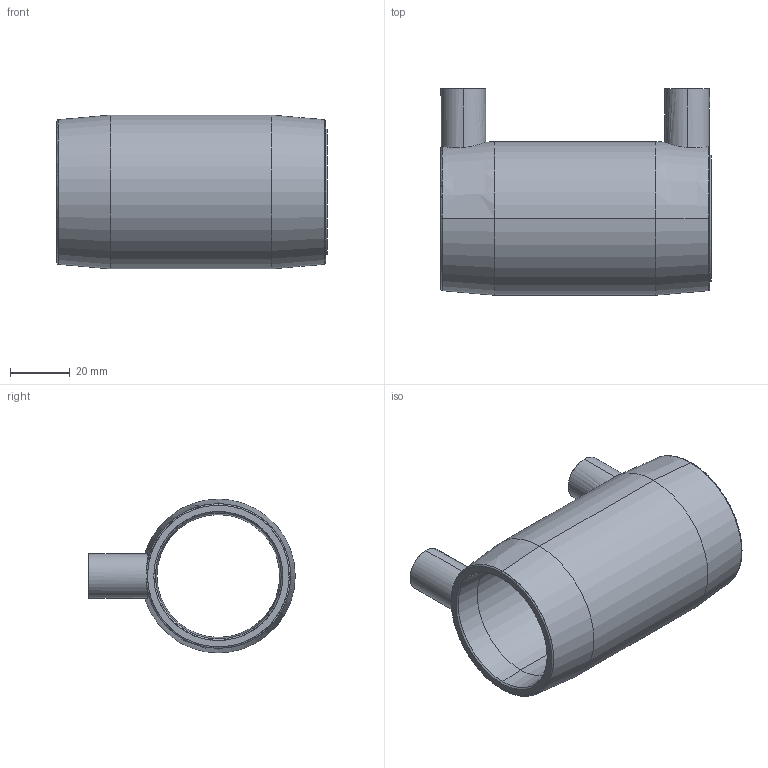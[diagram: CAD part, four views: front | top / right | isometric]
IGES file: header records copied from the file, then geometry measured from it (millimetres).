
Start section: SolidWorks IGES file using analytic representation for surfaces
Global section: file name: G:\Group\Marketing\Public\CAD Offering - Website\1. coupler\CBKHA40.IGS; native system: SolidWorks 2017; preprocessor: SolidWorks 2017; author: hwegrzynska; date: 180919.145954; units: millimetre
Bounding box: 90.5 x 69.2 x 51.55 mm (x, y, z)
Surface area: 30328.9 mm2 (no closed solid volume)
Topology: 0 solids, 0 shells, 68 faces, 1102 edges, 1102 vertices
Faces by surface type: revolution 44, bspline 24
